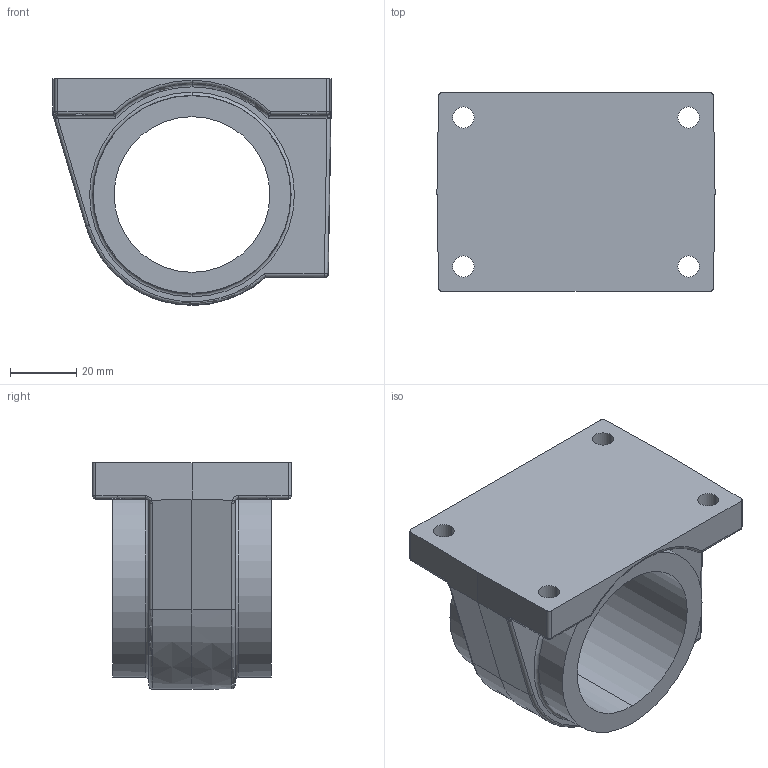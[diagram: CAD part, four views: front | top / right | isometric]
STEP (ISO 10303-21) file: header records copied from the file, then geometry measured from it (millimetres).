
FILE_DESCRIPTION (( 'STEP AP203' ), '1' );
FILE_NAME ('KGG65-30.step', '2020-03-10T15:21:17', ( '' ), ( '' ), 'SwSTEP 2.0', 'SolidWorks 2019', '' );
FILE_SCHEMA (( 'CONFIG_CONTROL_DESIGN' ));
Length unit declared in the file: millimetre
Products named in the file (2): KGG65-30
Bounding box: 83.98 x 60 x 68.5 mm (x, y, z)
Volume: 124249.6 mm3; surface area: 31393.5 mm2
Topology: 1 solids, 1 shells, 121 faces, 291 edges, 168 vertices
Faces by surface type: cylinder 49, plane 29, torus 14, bspline 12, sphere 10, cone 7
Entity records: 4045 total; most frequent: CARTESIAN_POINT 1167, DIRECTION 589, ORIENTED_EDGE 570, EDGE_CURVE 285, AXIS2_PLACEMENT_3D 242, VERTEX_POINT 168, EDGE_LOOP 133, CIRCLE 131
